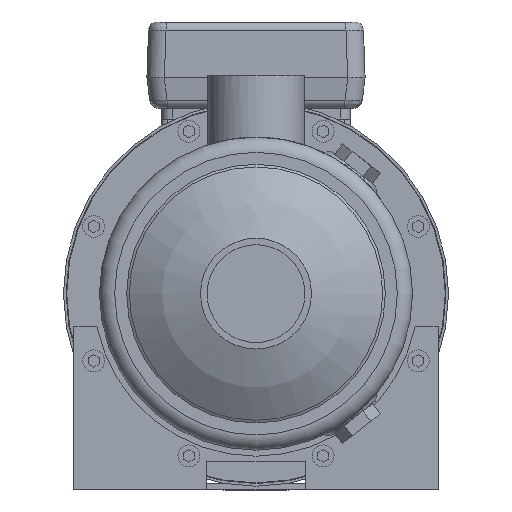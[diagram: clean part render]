
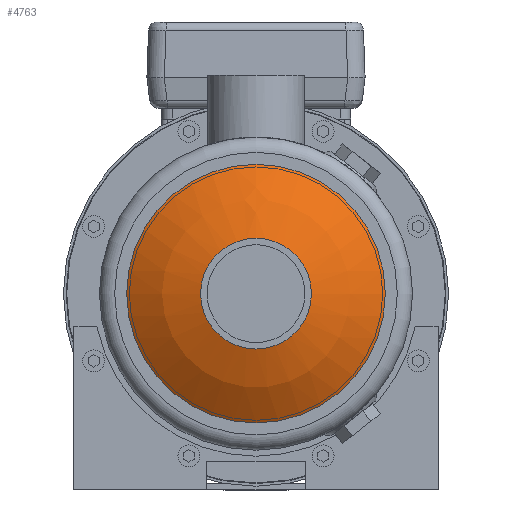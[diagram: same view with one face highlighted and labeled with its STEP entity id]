
A CAD part, left-side view. The second image highlights one B-rep face of the part: STEP entity #4763.
In plain terms, the highlighted spherical face has radius 100 mm.
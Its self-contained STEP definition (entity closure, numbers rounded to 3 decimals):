
#83=SPHERICAL_SURFACE('',#6416,100.);
#1088=ORIENTED_EDGE('',*,*,#2403,.T.);
#1089=ORIENTED_EDGE('',*,*,#2402,.F.);
#2402=EDGE_CURVE('',#3064,#3064,#3517,.T.);
#2403=EDGE_CURVE('',#3065,#3065,#3518,.T.);
#3064=VERTEX_POINT('',#8584);
#3065=VERTEX_POINT('',#8587);
#3517=CIRCLE('',#6415,25.4);
#3518=CIRCLE('',#6417,59.25);
#3735=EDGE_LOOP('',(#1088));
#3736=EDGE_LOOP('',(#1089));
#4167=FACE_BOUND('',#3735,.T.);
#4168=FACE_BOUND('',#3736,.T.);
#4763=ADVANCED_FACE('',(#4167,#4168),#83,.T.);
#6415=AXIS2_PLACEMENT_3D('',#8583,#7008,#7009);
#6416=AXIS2_PLACEMENT_3D('',#8585,#7010,#7011);
#6417=AXIS2_PLACEMENT_3D('',#8586,#7012,#7013);
#7008=DIRECTION('',(-1.,0.,0.));
#7009=DIRECTION('',(0.,0.,1.));
#7010=DIRECTION('',(-1.,0.,0.));
#7011=DIRECTION('',(0.,0.,1.));
#7012=DIRECTION('',(-1.,0.,0.));
#7013=DIRECTION('',(0.,0.,1.));
#8583=CARTESIAN_POINT('',(-52.02,0.,0.));
#8584=CARTESIAN_POINT('',(-52.02,0.,25.4));
#8585=CARTESIAN_POINT('',(44.7,0.,0.));
#8586=CARTESIAN_POINT('',(-35.857,0.,0.));
#8587=CARTESIAN_POINT('',(-35.857,0.,59.25));
